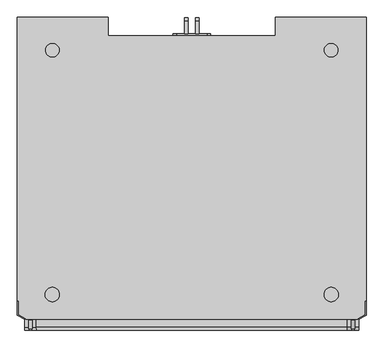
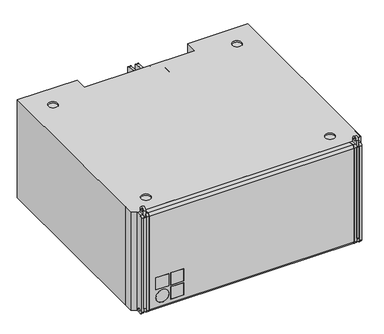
"""IFC4 building model written with IfcOpenShell, lengths in millimetres: proxy geometry, d&b SL-Series KSLi-SUB : KSLi-SUB."""

from ifc_helpers import new_model, si_unit, point, frame, frame_2d, origin, origin_with_axes, place, context, project, spatial, polyline, circle_curve, trimmed, segment, composite_curve, outline, extrude, source, transform, mapped, element, save
from ifc_brep_helpers import plane_surface, cylinder_surface, revolved_surface, advanced_brep


def communication_devices_1bfed97e(model_context):
    return source(origin(), model_context, "Body", "SolidModel", [
        extrude(outline(polyline([(2084.5, -246.9994027), (2140.5, -246.9994027), (2140.5, -256.9994027), (2084.5, -256.9994027), (2084.5, -246.9994027)])), frame((0.0, 0.0, 90.5), z_axis=(0.0, 0.0, 1.0), x_axis=(1.0, 0.0, 0.0)), (0.0, 0.0, 1.0), 56.0),
        extrude(outline(polyline([(2148.5, -246.9994027), (2204.5, -246.9994027), (2204.5, -256.9994027), (2148.5, -256.9994027), (2148.5, -246.9994027)])), frame((0.0, 0.0, 90.5), z_axis=(0.0, 0.0, 1.0), x_axis=(1.0, 0.0, 0.0)), (0.0, 0.0, 1.0), 56.0),
        extrude(outline(polyline([(2148.5, -246.9994027), (2204.5, -246.9994027), (2204.5, -256.9994027), (2148.5, -256.9994027), (2148.5, -246.9994027)])), frame((0.0, 0.0, 26.5), z_axis=(0.0, 0.0, 1.0), x_axis=(1.0, 0.0, 0.0)), (0.0, 0.0, 1.0), 56.0),
        extrude(outline(composite_curve([segment(trimmed(circle_curve(frame_2d((54.5, 2112.5)), 28.0), [point((54.5, 2084.5))], [point((54.5, 2140.5))], False, "CARTESIAN"), True, "CONTINUOUS"), segment(trimmed(circle_curve(frame_2d((54.5, 2112.5)), 28.0), [point((54.5, 2140.5))], [point((54.5, 2084.5))], False, "CARTESIAN"), True, "CONTINUOUS")], self_intersect=False)), frame((0.0, -256.9994027, 0.0), z_axis=(0.0, 1.0, 0.0), x_axis=(0.0, 0.0, 1.0)), (0.0, 0.0, 1.0), 10.0),
        advanced_brep(
        [(3000.0, -171.9994027, 450.0), (3000.0, 639.2505973, 450.0), (2740.0, 639.2505973, 450.0), (2740.0, 586.2505973, 450.0), (2260.0, 586.2505973, 450.0), (2260.0, 639.2505973, 450.0), (2000.0, 639.2505973, 450.0), (2000.0, -171.9994027, 450.0), (2003.0, -171.9994027, 450.0), (2003.0, -211.9316714, 450.0), (2023.5, -223.7673519, 450.0), (2023.5, -225.4994027, 450.0), (2976.5, -225.4994027, 450.0), (2976.5, -223.7673519, 450.0), (2997.0, -211.9316714, 450.0), (2997.0, -171.9994027, 450.0), (2080.7290498, 545.3281728, 450.0), (2119.5480947, 545.3281728, 450.0), (2079.3260723, -154.6718272, 450.0), (2120.3260723, -154.6718272, 450.0), (2919.2709502, 545.3281728, 450.0), (2880.4519053, 545.3281728, 450.0), (2920.6739277, -154.6718272, 450.0), (2879.6739277, -154.6718272, 450.0), (2976.5, -225.4994027, 0.0), (2023.5, -225.4994027, 0.0), (3000.0, 639.2505973, 0.0), (2740.0, 639.2505973, 0.0), (2808.0, 639.2505973, 168.0), (2816.0, 639.2505973, 160.0), (2860.0, 639.2505973, 160.0), (2868.0, 639.2505973, 168.0), (2868.0, 639.2505973, 282.0), (2860.0, 639.2505973, 290.0), (2816.0, 639.2505973, 290.0), (2808.0, 639.2505973, 282.0), (2740.0, 586.2505973, 0.0), (2740.0, 586.2505973, 17.4568966), (2740.0, 561.2505973, 17.4568966), (2740.0, 561.2505973, 152.0689655), (2740.0, 586.2505973, 152.0689655), (2740.0, 586.2505973, 157.887931), (2740.0, 561.2505973, 157.887931), (2740.0, 561.2505973, 292.112069), (2740.0, 586.2505973, 292.112069), (2740.0, 586.2505973, 297.9310345), (2740.0, 561.2505973, 297.9310345), (2740.0, 561.2505973, 432.5431034), (2740.0, 586.2505973, 432.5431034), (2607.8420876, 561.2505973, 17.4568966), (2708.4158183, 561.2505973, 152.0689655), (2705.4996607, 561.2505973, 157.887931), (2604.92593, 561.2505973, 23.2758621), (2554.0, 561.2505973, 23.2758621), (2554.0, 561.2505973, 426.7241379), (2604.92593, 561.2505973, 426.7241379), (2705.4996607, 561.2505973, 292.112069), (2708.4158183, 561.2505973, 297.9310345), (2607.8420876, 561.2505973, 432.5431034), (2260.0, 561.2505973, 297.9310345), (2260.0, 561.2505973, 432.5431034), (2392.1579124, 561.2505973, 432.5431034), (2291.5841817, 561.2505973, 297.9310345), (2260.0, 561.2505973, 157.887931), (2260.0, 561.2505973, 292.112069), (2294.5003393, 561.2505973, 292.112069), (2395.07407, 561.2505973, 426.7241379), (2446.0, 561.2505973, 426.7241379), (2446.0, 561.2505973, 23.2758621), (2395.07407, 561.2505973, 23.2758621), (2294.5003393, 561.2505973, 157.887931), (2260.0, 561.2505973, 17.4568966), (2260.0, 561.2505973, 152.0689655), (2291.5841817, 561.2505973, 152.0689655), (2392.1579124, 561.2505973, 17.4568966), (2260.0, 639.2505973, 0.0), (2260.0, 586.2505973, 432.5431034), (2260.0, 586.2505973, 297.9310345), (2260.0, 586.2505973, 292.112069), (2260.0, 586.2505973, 157.887931), (2260.0, 586.2505973, 152.0689655), (2260.0, 586.2505973, 17.4568966), (2260.0, 586.2505973, 0.0), (2000.0, 639.2505973, 0.0), (2184.0, 639.2505973, 160.0), (2192.0, 639.2505973, 168.0), (2192.0, 639.2505973, 282.0), (2184.0, 639.2505973, 290.0), (2140.0, 639.2505973, 290.0), (2132.0, 639.2505973, 282.0), (2132.0, 639.2505973, 168.0), (2140.0, 639.2505973, 160.0), (2080.7290498, 545.3281728, 444.0), (2119.5480947, 545.3281728, 444.0), (2079.3260723, -154.6718272, 444.0), (2120.3260723, -154.6718272, 444.0), (2919.2709502, 545.3281728, 444.0), (2880.4519053, 545.3281728, 444.0), (2920.6739277, -154.6718272, 444.0), (2879.6739277, -154.6718272, 444.0), (2080.7290498, 545.3281728, 6.0), (2119.5480947, 545.3281728, 6.0), (2079.3260723, -154.6718272, 6.0), (2120.3260723, -154.6718272, 6.0), (2919.2709502, 545.3281728, 6.0), (2880.4519053, 545.3281728, 6.0), (2920.6739277, -154.6718272, 6.0), (2879.6739277, -154.6718272, 6.0), (3000.0, -171.9994027, 0.0), (2997.0, -171.9994027, 0.0), (2000.0, -171.9994027, 0.0), (2003.0, -171.9994027, 0.0), (2976.5, -223.7673519, 0.0), (2997.0, -211.9316714, 0.0), (2003.0, -211.9316714, 0.0), (2023.5, -223.7673519, 0.0), (2080.7290498, 545.3281728, 0.0), (2119.5480947, 545.3281728, 0.0), (2079.3260723, -154.6718272, 0.0), (2120.3260723, -154.6718272, 0.0), (2919.2709502, 545.3281728, 0.0), (2880.4519053, 545.3281728, 0.0), (2920.6739277, -154.6718272, 0.0), (2879.6739277, -154.6718272, 0.0), (2607.8420876, 586.2505973, 432.5431034), (2708.4158183, 586.2505973, 297.9310345), (2705.4996607, 586.2505973, 292.112069), (2604.92593, 586.2505973, 426.7241379), (2554.0, 586.2505973, 426.7241379), (2554.0, 586.2505973, 23.2758621), (2604.92593, 586.2505973, 23.2758621), (2705.4996607, 586.2505973, 157.887931), (2708.4158183, 586.2505973, 152.0689655), (2607.8420876, 586.2505973, 17.4568966), (2392.1579124, 586.2505973, 17.4568966), (2291.5841817, 586.2505973, 152.0689655), (2294.5003393, 586.2505973, 157.887931), (2395.07407, 586.2505973, 23.2758621), (2446.0, 586.2505973, 23.2758621), (2446.0, 586.2505973, 426.7241379), (2395.07407, 586.2505973, 426.7241379), (2294.5003393, 586.2505973, 292.112069), (2291.5841817, 586.2505973, 297.9310345), (2392.1579124, 586.2505973, 432.5431034), (2192.0, 634.2505973, 168.0), (2184.0, 634.2505973, 160.0), (2140.0, 634.2505973, 160.0), (2132.0, 634.2505973, 168.0), (2132.0, 634.2505973, 282.0), (2140.0, 634.2505973, 290.0), (2184.0, 634.2505973, 290.0), (2192.0, 634.2505973, 282.0), (2818.0, 619.2505973, 280.0), (2858.0, 619.2505973, 280.0), (2858.0, 619.2505973, 170.0), (2818.0, 619.2505973, 170.0), (2818.0, 634.2505973, 280.0), (2858.0, 634.2505973, 280.0), (2858.0, 634.2505973, 170.0), (2818.0, 634.2505973, 170.0), (2808.0, 634.2505973, 168.0), (2808.0, 634.2505973, 282.0), (2816.0, 634.2505973, 290.0), (2860.0, 634.2505973, 290.0), (2868.0, 634.2505973, 282.0), (2868.0, 634.2505973, 168.0), (2860.0, 634.2505973, 160.0), (2816.0, 634.2505973, 160.0)],
        [
            (0, 1),
            (1, 2),
            (2, 3),
            (3, 4),
            (4, 5),
            (5, 6),
            (6, 7),
            (7, 8),
            (8, 9),
            (9, 10),
            (10, 11),
            (11, 12),
            (12, 13),
            (13, 14),
            (14, 15),
            (15, 0),
            (16, 17, circle_curve(frame((2100.1385723, 545.3281728, 450.0), z_axis=(0.0, 0.0, -1.0), x_axis=(1.0, 0.0, 0.0)), 19.4095225)),
            (17, 16, circle_curve(frame((2100.1385723, 545.3281728, 450.0), z_axis=(0.0, 0.0, -1.0), x_axis=(1.0, 0.0, 0.0)), 19.4095225)),
            (18, 19, circle_curve(frame((2099.8260723, -154.6718272, 450.0), z_axis=(0.0, 0.0, -1.0), x_axis=(1.0, 0.0, 0.0)), 20.5)),
            (19, 18, circle_curve(frame((2099.8260723, -154.6718272, 450.0), z_axis=(0.0, 0.0, -1.0), x_axis=(1.0, 0.0, 0.0)), 20.5)),
            (20, 21, circle_curve(frame((2899.8614277, 545.3281728, 450.0), z_axis=(0.0, 0.0, -1.0), x_axis=(-1.0, 0.0, 0.0)), 19.4095225)),
            (21, 20, circle_curve(frame((2899.8614277, 545.3281728, 450.0), z_axis=(0.0, 0.0, -1.0), x_axis=(-1.0, 0.0, 0.0)), 19.4095225)),
            (22, 23, circle_curve(frame((2900.1739277, -154.6718272, 450.0), z_axis=(0.0, 0.0, -1.0), x_axis=(-1.0, 0.0, 0.0)), 20.5)),
            (23, 22, circle_curve(frame((2900.1739277, -154.6718272, 450.0), z_axis=(0.0, 0.0, -1.0), x_axis=(-1.0, 0.0, 0.0)), 20.5)),
            (24, 12),
            (11, 25),
            (25, 24),
            (1, 26),
            (26, 27),
            (27, 2),
            (28, 29, circle_curve(frame((2816.0, 639.2505973, 168.0), z_axis=(0.0, -1.0, 0.0), x_axis=(-1.0, 0.0, 0.0)), 8.0)),
            (29, 30),
            (30, 31, circle_curve(frame((2860.0, 639.2505973, 168.0), z_axis=(0.0, -1.0, 0.0), x_axis=(-1.0, 0.0, 0.0)), 8.0)),
            (31, 32),
            (32, 33, circle_curve(frame((2860.0, 639.2505973, 282.0), z_axis=(0.0, -1.0, 0.0), x_axis=(-1.0, 0.0, 0.0)), 8.0)),
            (33, 34),
            (34, 35, circle_curve(frame((2816.0, 639.2505973, 282.0), z_axis=(0.0, -1.0, 0.0), x_axis=(-1.0, 0.0, 0.0)), 8.0)),
            (35, 28),
            (27, 36),
            (36, 37),
            (37, 38),
            (38, 39),
            (39, 40),
            (40, 41),
            (41, 42),
            (42, 43),
            (43, 44),
            (44, 45),
            (45, 46),
            (46, 47),
            (47, 48),
            (48, 3),
            (38, 49),
            (49, 50),
            (50, 39),
            (42, 51),
            (51, 52),
            (52, 53),
            (53, 54),
            (54, 55),
            (55, 56),
            (56, 43),
            (46, 57),
            (57, 58),
            (58, 47),
            (59, 60),
            (60, 61),
            (61, 62),
            (62, 59),
            (63, 64),
            (64, 65),
            (65, 66),
            (66, 67),
            (67, 68),
            (68, 69),
            (69, 70),
            (70, 63),
            (71, 72),
            (72, 73),
            (73, 74),
            (74, 71),
            (75, 5),
            (4, 76),
            (76, 60),
            (59, 77),
            (77, 78),
            (78, 64),
            (63, 79),
            (79, 80),
            (80, 72),
            (71, 81),
            (81, 82),
            (82, 75),
            (83, 6),
            (75, 83),
            (84, 85, circle_curve(frame((2184.0, 639.2505973, 168.0), z_axis=(0.0, -1.0, 0.0), x_axis=(1.0, 0.0, 0.0)), 8.0)),
            (85, 86),
            (86, 87, circle_curve(frame((2184.0, 639.2505973, 282.0), z_axis=(0.0, -1.0, 0.0), x_axis=(1.0, 0.0, 0.0)), 8.0)),
            (87, 88),
            (88, 89, circle_curve(frame((2140.0, 639.2505973, 282.0), z_axis=(0.0, -1.0, 0.0), x_axis=(1.0, 0.0, 0.0)), 8.0)),
            (89, 90),
            (90, 91, circle_curve(frame((2140.0, 639.2505973, 168.0), z_axis=(0.0, -1.0, 0.0), x_axis=(1.0, 0.0, 0.0)), 8.0)),
            (91, 84),
            (16, 92),
            (92, 93, circle_curve(frame((2100.1385723, 545.3281728, 444.0), z_axis=(0.0, 0.0, -1.0), x_axis=(1.0, 0.0, 0.0)), 19.4095225)),
            (93, 17),
            (93, 92, circle_curve(frame((2100.1385723, 545.3281728, 444.0), z_axis=(0.0, 0.0, -1.0), x_axis=(1.0, 0.0, 0.0)), 19.4095225)),
            (18, 94),
            (94, 95, circle_curve(frame((2099.8260723, -154.6718272, 444.0), z_axis=(0.0, 0.0, -1.0), x_axis=(1.0, 0.0, 0.0)), 20.5)),
            (95, 19),
            (95, 94, circle_curve(frame((2099.8260723, -154.6718272, 444.0), z_axis=(0.0, 0.0, -1.0), x_axis=(1.0, 0.0, 0.0)), 20.5)),
            (20, 96),
            (96, 97, circle_curve(frame((2899.8614277, 545.3281728, 444.0), z_axis=(0.0, 0.0, -1.0), x_axis=(-1.0, 0.0, 0.0)), 19.4095225)),
            (97, 21),
            (97, 96, circle_curve(frame((2899.8614277, 545.3281728, 444.0), z_axis=(0.0, 0.0, -1.0), x_axis=(-1.0, 0.0, 0.0)), 19.4095225)),
            (22, 98),
            (98, 99, circle_curve(frame((2900.1739277, -154.6718272, 444.0), z_axis=(0.0, 0.0, -1.0), x_axis=(-1.0, 0.0, 0.0)), 20.5)),
            (99, 23),
            (99, 98, circle_curve(frame((2900.1739277, -154.6718272, 444.0), z_axis=(0.0, 0.0, -1.0), x_axis=(-1.0, 0.0, 0.0)), 20.5)),
            (100, 101, circle_curve(frame((2100.1385723, 545.3281728, 6.0), z_axis=(0.0, 0.0, -1.0), x_axis=(1.0, 0.0, 0.0)), 19.4095225)),
            (101, 100, circle_curve(frame((2100.1385723, 545.3281728, 6.0), z_axis=(0.0, 0.0, -1.0), x_axis=(1.0, 0.0, 0.0)), 19.4095225)),
            (102, 103, circle_curve(frame((2099.8260723, -154.6718272, 6.0), z_axis=(0.0, 0.0, -1.0), x_axis=(1.0, 0.0, 0.0)), 20.5)),
            (103, 102, circle_curve(frame((2099.8260723, -154.6718272, 6.0), z_axis=(0.0, 0.0, -1.0), x_axis=(1.0, 0.0, 0.0)), 20.5)),
            (104, 105, circle_curve(frame((2899.8614277, 545.3281728, 6.0), z_axis=(0.0, 0.0, -1.0), x_axis=(-1.0, 0.0, 0.0)), 19.4095225)),
            (105, 104, circle_curve(frame((2899.8614277, 545.3281728, 6.0), z_axis=(0.0, 0.0, -1.0), x_axis=(-1.0, 0.0, 0.0)), 19.4095225)),
            (106, 107, circle_curve(frame((2900.1739277, -154.6718272, 6.0), z_axis=(0.0, 0.0, -1.0), x_axis=(-1.0, 0.0, 0.0)), 20.5)),
            (107, 106, circle_curve(frame((2900.1739277, -154.6718272, 6.0), z_axis=(0.0, 0.0, -1.0), x_axis=(-1.0, 0.0, 0.0)), 20.5)),
            (0, 108),
            (108, 26),
            (15, 109),
            (109, 108),
            (83, 110),
            (110, 7),
            (110, 111),
            (111, 8),
            (24, 112),
            (112, 13),
            (112, 113),
            (113, 14),
            (113, 109),
            (111, 114),
            (114, 9),
            (114, 115),
            (115, 10),
            (115, 25),
            (82, 36),
            (116, 117, circle_curve(frame((2100.1385723, 545.3281728, 0.0), z_axis=(0.0, 0.0, 1.0), x_axis=(1.0, 0.0, 0.0)), 19.4095225)),
            (117, 116, circle_curve(frame((2100.1385723, 545.3281728, 0.0), z_axis=(0.0, 0.0, 1.0), x_axis=(1.0, 0.0, 0.0)), 19.4095225)),
            (118, 119, circle_curve(frame((2099.8260723, -154.6718272, 0.0), z_axis=(0.0, 0.0, 1.0), x_axis=(1.0, 0.0, 0.0)), 20.5)),
            (119, 118, circle_curve(frame((2099.8260723, -154.6718272, 0.0), z_axis=(0.0, 0.0, 1.0), x_axis=(1.0, 0.0, 0.0)), 20.5)),
            (120, 121, circle_curve(frame((2899.8614277, 545.3281728, 0.0), z_axis=(0.0, 0.0, 1.0), x_axis=(-1.0, 0.0, 0.0)), 19.4095225)),
            (121, 120, circle_curve(frame((2899.8614277, 545.3281728, 0.0), z_axis=(0.0, 0.0, 1.0), x_axis=(-1.0, 0.0, 0.0)), 19.4095225)),
            (122, 123, circle_curve(frame((2900.1739277, -154.6718272, 0.0), z_axis=(0.0, 0.0, 1.0), x_axis=(-1.0, 0.0, 0.0)), 20.5)),
            (123, 122, circle_curve(frame((2900.1739277, -154.6718272, 0.0), z_axis=(0.0, 0.0, 1.0), x_axis=(-1.0, 0.0, 0.0)), 20.5)),
            (117, 101),
            (100, 116),
            (119, 103),
            (102, 118),
            (121, 105),
            (104, 120),
            (123, 107),
            (106, 122),
            (48, 124),
            (124, 125),
            (125, 45),
            (44, 126),
            (126, 127),
            (127, 128),
            (128, 129),
            (129, 130),
            (130, 131),
            (131, 41),
            (40, 132),
            (132, 133),
            (133, 37),
            (81, 134),
            (134, 135),
            (135, 80),
            (79, 136),
            (136, 137),
            (137, 138),
            (138, 139),
            (139, 140),
            (140, 141),
            (141, 78),
            (77, 142),
            (142, 143),
            (143, 76),
            (125, 57),
            (124, 58),
            (128, 54),
            (53, 129),
            (56, 126),
            (55, 127),
            (52, 130),
            (51, 131),
            (132, 50),
            (49, 133),
            (74, 134),
            (73, 135),
            (70, 136),
            (69, 137),
            (68, 138),
            (67, 139),
            (66, 140),
            (65, 141),
            (62, 142),
            (61, 143),
            (144, 145, circle_curve(frame((2184.0, 634.2505973, 168.0), z_axis=(0.0, 1.0, 0.0), x_axis=(1.0, 0.0, 0.0)), 8.0)),
            (145, 146),
            (146, 147, circle_curve(frame((2140.0, 634.2505973, 168.0), z_axis=(0.0, 1.0, 0.0), x_axis=(1.0, 0.0, 0.0)), 8.0)),
            (147, 148),
            (148, 149, circle_curve(frame((2140.0, 634.2505973, 282.0), z_axis=(0.0, 1.0, 0.0), x_axis=(1.0, 0.0, 0.0)), 8.0)),
            (149, 150),
            (150, 151, circle_curve(frame((2184.0, 634.2505973, 282.0), z_axis=(0.0, 1.0, 0.0), x_axis=(1.0, 0.0, 0.0)), 8.0)),
            (151, 144),
            (144, 85),
            (84, 145),
            (91, 146),
            (90, 147),
            (89, 148),
            (88, 149),
            (87, 150),
            (86, 151),
            (152, 153),
            (153, 154),
            (154, 155),
            (155, 152),
            (152, 156),
            (156, 157),
            (157, 153),
            (157, 158),
            (158, 154),
            (158, 159),
            (159, 155),
            (159, 156),
            (160, 161),
            (161, 162, circle_curve(frame((2816.0, 634.2505973, 282.0), z_axis=(0.0, 1.0, 0.0), x_axis=(-1.0, 0.0, 0.0)), 8.0)),
            (162, 163),
            (163, 164, circle_curve(frame((2860.0, 634.2505973, 282.0), z_axis=(0.0, 1.0, 0.0), x_axis=(-1.0, 0.0, 0.0)), 8.0)),
            (164, 165),
            (165, 166, circle_curve(frame((2860.0, 634.2505973, 168.0), z_axis=(0.0, 1.0, 0.0), x_axis=(-1.0, 0.0, 0.0)), 8.0)),
            (166, 167),
            (167, 160, circle_curve(frame((2816.0, 634.2505973, 168.0), z_axis=(0.0, 1.0, 0.0), x_axis=(-1.0, 0.0, 0.0)), 8.0)),
            (167, 29),
            (28, 160),
            (166, 30),
            (165, 31),
            (164, 32),
            (163, 33),
            (162, 34),
            (161, 35),
        ],
        [
            plane_surface(frame((2930.0, -225.4994027, 450.0), z_axis=(0.0, 0.0, 1.0), x_axis=(0.0, 1.0, 0.0))),
            plane_surface(frame((2070.0, -225.4994027, 450.0), z_axis=(0.0, -1.0, 0.0), x_axis=(0.0, 0.0, -1.0))),
            plane_surface(frame((2930.0, 639.2505973, 450.0), z_axis=(0.0, 1.0, 0.0), x_axis=(0.0, 0.0, -1.0))),
            plane_surface(frame((2740.0, 639.2505973, 450.0), z_axis=(-1.0, 0.0, 0.0), x_axis=(0.0, 0.0, -1.0))),
            plane_surface(frame((2740.0, 561.2505973, 450.0), z_axis=(0.0, 1.0, 0.0), x_axis=(0.0, 0.0, -1.0))),
            plane_surface(frame((2260.0, 561.2505973, 450.0), z_axis=(1.0, 0.0, 0.0), x_axis=(0.0, 0.0, -1.0))),
            plane_surface(frame((2260.0, 639.2505973, 450.0), z_axis=(0.0, 1.0, 0.0), x_axis=(0.0, 0.0, -1.0))),
            revolved_surface(polyline([(2119.5480948, 545.3281728, 444.0), (2119.5480948, 545.3281728, 450.0)]), (2100.1385723, 545.3281728, 475.0), (0.0, 0.0, -1.0)),
            revolved_surface(polyline([(2120.3260723, -154.6718272, 444.0), (2120.3260723, -154.6718272, 450.0)]), (2099.8260723, -154.6718272, 475.0), (0.0, 0.0, -1.0)),
            revolved_surface(polyline([(2880.4519052, 545.3281728, 444.0), (2880.4519052, 545.3281728, 450.0)]), (2899.8614277, 545.3281728, 475.0), (0.0, 0.0, -1.0)),
            revolved_surface(polyline([(2879.6739277, -154.6718272, 444.0), (2879.6739277, -154.6718272, 450.0)]), (2900.1739277, -154.6718272, 475.0), (0.0, 0.0, -1.0)),
            plane_surface(frame((2930.0, -225.4994027, 6.0), z_axis=(0.0, 0.0, -1.0), x_axis=(0.0, -1.0, 0.0))),
            plane_surface(frame((2930.0, -225.4994027, 444.0), z_axis=(0.0, 0.0, 1.0), x_axis=(0.0, 1.0, 0.0))),
            plane_surface(frame((3000.0, 960.0005973, 450.0), z_axis=(1.0, 0.0, 0.0), x_axis=(0.0, -1.0, 0.0))),
            plane_surface(frame((2930.0, -171.9994027, 0.0), z_axis=(0.0, -1.0, 0.0), x_axis=(1.0, 0.0, 0.0))),
            plane_surface(frame((2000.0, -171.9994027, -79.8), z_axis=(-1.0, 0.0, 0.0), x_axis=(0.0, 0.0, 1.0))),
            plane_surface(frame((2070.0, -171.9994027, 450.0), z_axis=(0.0, -1.0, 0.0), x_axis=(-1.0, 0.0, 0.0))),
            plane_surface(frame((2976.5, -225.4994027, 450.0), z_axis=(1.0, 0.0, 0.0), x_axis=(0.0, 0.0, -1.0))),
            plane_surface(frame((2976.5, -223.7673519, 450.0), z_axis=(0.4999999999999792, -0.8660254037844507, 0.0), x_axis=(0.0, 0.0, -1.0))),
            plane_surface(frame((2997.0, -211.9316714, 450.0), z_axis=(1.0, 0.0, 0.0), x_axis=(0.0, 0.0, -1.0))),
            plane_surface(frame((2003.0, -171.9994027, 450.0), z_axis=(-1.0, 0.0, 0.0), x_axis=(0.0, 0.0, -1.0))),
            plane_surface(frame((2003.0, -211.9316714, 450.0), z_axis=(-0.4999999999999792, -0.8660254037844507, 0.0), x_axis=(0.0, 0.0, -1.0))),
            plane_surface(frame((2023.5, -223.7673519, 450.0), z_axis=(-1.0, 0.0, 0.0), x_axis=(0.0, 0.0, -1.0))),
            plane_surface(frame((2930.0, 639.2505973, 0.0), z_axis=(0.0, 0.0, -1.0), x_axis=(1.0, 0.0, 0.0))),
            revolved_surface(polyline([(2119.5480948, 545.3281728, 0.0), (2119.5480948, 545.3281728, 6.0)]), (2100.1385723, 545.3281728, -85.0), (0.0, 0.0, -1.0)),
            revolved_surface(polyline([(2120.3260723, -154.6718272, 0.0), (2120.3260723, -154.6718272, 6.0)]), (2099.8260723, -154.6718272, -85.0), (0.0, 0.0, -1.0)),
            revolved_surface(polyline([(2880.4519052, 545.3281728, 0.0), (2880.4519052, 545.3281728, 6.0)]), (2899.8614277, 545.3281728, -85.0), (0.0, 0.0, -1.0)),
            revolved_surface(polyline([(2879.6739277, -154.6718272, 0.0), (2879.6739277, -154.6718272, 6.0)]), (2900.1739277, -154.6718272, -85.0), (0.0, 0.0, -1.0)),
            plane_surface(frame((2740.0, 586.2505973, -132.4784483), z_axis=(0.0, 1.0, 0.0), x_axis=(0.0, 0.0, -1.0))),
            plane_surface(frame((2708.4158183, 586.2505973, 297.9310345), z_axis=(0.0, 0.0, 1.0), x_axis=(0.0, -1.0, 0.0))),
            plane_surface(frame((2607.8420876, 586.2505973, 432.5431034), z_axis=(0.8010993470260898, 0.0, 0.598531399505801), x_axis=(0.0, -1.0, 0.0))),
            plane_surface(frame((2554.0, 586.2505973, 426.7241379), z_axis=(1.0, 0.0, 0.0), x_axis=(0.0, -1.0, 0.0))),
            plane_surface(frame((2740.0, 586.2505973, 292.112069), z_axis=(0.0, 0.0, -1.0), x_axis=(0.0, -1.0, 0.0))),
            plane_surface(frame((2705.4996607, 586.2505973, 292.112069), z_axis=(-0.801099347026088, 0.0, -0.5985313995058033), x_axis=(0.0, -1.0, 0.0))),
            plane_surface(frame((2604.92593, 586.2505973, 426.7241379), z_axis=(0.0, 0.0, -1.0), x_axis=(0.0, -1.0, 0.0))),
            plane_surface(frame((2554.0, 586.2505973, 23.2758621), z_axis=(0.0, 0.0, 1.0), x_axis=(0.0, -1.0, 0.0))),
            plane_surface(frame((2604.92593, 586.2505973, 23.2758621), z_axis=(-0.8010993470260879, 0.0, 0.5985313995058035), x_axis=(0.0, -1.0, 0.0))),
            plane_surface(frame((2705.4996607, 586.2505973, 157.887931), z_axis=(0.0, 0.0, 1.0), x_axis=(0.0, -1.0, 0.0))),
            plane_surface(frame((2740.0, 586.2505973, 432.5431034), z_axis=(0.0, 0.0, -1.0), x_axis=(0.0, -1.0, 0.0))),
            plane_surface(frame((2708.4158183, 586.2505973, 152.0689655), z_axis=(0.8010993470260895, 0.0, -0.5985313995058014), x_axis=(0.0, -1.0, 0.0))),
            plane_surface(frame((2607.8420876, 586.2505973, 17.4568966), z_axis=(0.0, 0.0, 1.0), x_axis=(0.0, -1.0, 0.0))),
            plane_surface(frame((2740.0, 586.2505973, 152.0689655), z_axis=(0.0, 0.0, -1.0), x_axis=(0.0, -1.0, 0.0))),
            plane_surface(frame((2260.0, 586.2505973, 17.4568966), z_axis=(0.0, 0.0, 1.0), x_axis=(0.0, -1.0, 0.0))),
            plane_surface(frame((2392.1579124, 586.2505973, 17.4568966), z_axis=(-0.8010993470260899, 0.0, -0.5985313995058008), x_axis=(0.0, -1.0, 0.0))),
            plane_surface(frame((2291.5841817, 586.2505973, 152.0689655), z_axis=(0.0, 0.0, -1.0), x_axis=(0.0, -1.0, 0.0))),
            plane_surface(frame((2260.0, 586.2505973, 157.887931), z_axis=(0.0, 0.0, 1.0), x_axis=(0.0, -1.0, 0.0))),
            plane_surface(frame((2294.5003393, 586.2505973, 157.887931), z_axis=(0.8010993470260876, 0.0, 0.5985313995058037), x_axis=(0.0, -1.0, 0.0))),
            plane_surface(frame((2395.07407, 586.2505973, 23.2758621), z_axis=(0.0, 0.0, 1.0), x_axis=(0.0, -1.0, 0.0))),
            plane_surface(frame((2446.0, 586.2505973, 23.2758621), z_axis=(-1.0, 0.0, 0.0), x_axis=(0.0, -1.0, 0.0))),
            plane_surface(frame((2446.0, 586.2505973, 426.7241379), z_axis=(0.0, 0.0, -1.0), x_axis=(0.0, -1.0, 0.0))),
            plane_surface(frame((2395.07407, 586.2505973, 426.7241379), z_axis=(0.8010993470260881, 0.0, -0.5985313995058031), x_axis=(0.0, -1.0, 0.0))),
            plane_surface(frame((2294.5003393, 586.2505973, 292.112069), z_axis=(0.0, 0.0, -1.0), x_axis=(0.0, -1.0, 0.0))),
            plane_surface(frame((2260.0, 586.2505973, 297.9310345), z_axis=(0.0, 0.0, 1.0), x_axis=(0.0, -1.0, 0.0))),
            plane_surface(frame((2291.5841817, 586.2505973, 297.9310345), z_axis=(-0.8010993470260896, 0.0, 0.5985313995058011), x_axis=(0.0, -1.0, 0.0))),
            plane_surface(frame((2392.1579124, 586.2505973, 432.5431034), z_axis=(0.0, 0.0, -1.0), x_axis=(0.0, -1.0, 0.0))),
            plane_surface(frame((2192.0, 634.2505973, 292.0), z_axis=(0.0, 1.0, 0.0), x_axis=(0.0, 0.0, 1.0))),
            revolved_surface(polyline([(2192.0, 634.2505973, 168.0), (2192.0, 639.2505973, 168.0)]), (2184.0, 639.2505973, 168.0), (0.0, -1.0, 0.0)),
            plane_surface(frame((2140.0, 634.2505973, 160.0), z_axis=(0.0, 0.0, 1.0), x_axis=(0.0, 1.0, 0.0))),
            revolved_surface(polyline([(2148.0, 634.2505973, 168.0), (2148.0, 639.2505973, 168.0)]), (2140.0, 639.2505973, 168.0), (0.0, -1.0, 0.0)),
            plane_surface(frame((2132.0, 634.2505973, 282.0), z_axis=(1.0, 0.0, 0.0), x_axis=(0.0, 1.0, 0.0))),
            revolved_surface(polyline([(2148.0, 634.2505973, 282.0), (2148.0, 639.2505973, 282.0)]), (2140.0, 639.2505973, 282.0), (0.0, -1.0, 0.0)),
            plane_surface(frame((2184.0, 634.2505973, 290.0), z_axis=(0.0, 0.0, -1.0), x_axis=(0.0, 1.0, 0.0))),
            revolved_surface(polyline([(2192.0, 634.2505973, 282.0), (2192.0, 639.2505973, 282.0)]), (2184.0, 639.2505973, 282.0), (0.0, -1.0, 0.0)),
            plane_surface(frame((2192.0, 634.2505973, 168.0), z_axis=(-1.0, 0.0, 0.0), x_axis=(0.0, 1.0, 0.0))),
            plane_surface(frame((2818.0, 619.2505973, 292.0), z_axis=(0.0, 1.0, 0.0), x_axis=(0.0, 0.0, -1.0))),
            plane_surface(frame((2858.0, 619.2505973, 280.0), z_axis=(0.0, 0.0, -1.0), x_axis=(0.0, 1.0, 0.0))),
            plane_surface(frame((2858.0, 619.2505973, 170.0), z_axis=(-1.0, 0.0, 0.0), x_axis=(0.0, 1.0, 0.0))),
            plane_surface(frame((2818.0, 619.2505973, 170.0), z_axis=(0.0, 0.0, 1.0), x_axis=(0.0, 1.0, 0.0))),
            plane_surface(frame((2818.0, 619.2505973, 280.0), z_axis=(1.0, 0.0, 0.0), x_axis=(0.0, 1.0, 0.0))),
            plane_surface(frame((2808.0, 634.2505973, 168.0), z_axis=(0.0, 1.0, 0.0), x_axis=(0.0, 0.0, -1.0))),
            revolved_surface(polyline([(2808.0, 634.2505973, 168.0), (2808.0, 639.2505973, 168.0)]), (2816.0, 639.2505973, 168.0), (0.0, -1.0, 0.0)),
            plane_surface(frame((2816.0, 634.2505973, 160.0), z_axis=(0.0, 0.0, 1.0), x_axis=(0.0, 1.0, 0.0))),
            revolved_surface(polyline([(2852.0, 634.2505973, 168.0), (2852.0, 639.2505973, 168.0)]), (2860.0, 639.2505973, 168.0), (0.0, -1.0, 0.0)),
            plane_surface(frame((2868.0, 634.2505973, 168.0), z_axis=(-1.0, 0.0, 0.0), x_axis=(0.0, 1.0, 0.0))),
            revolved_surface(polyline([(2852.0, 634.2505973, 282.0), (2852.0, 639.2505973, 282.0)]), (2860.0, 639.2505973, 282.0), (0.0, -1.0, 0.0)),
            plane_surface(frame((2860.0, 634.2505973, 290.0), z_axis=(0.0, 0.0, -1.0), x_axis=(0.0, 1.0, 0.0))),
            revolved_surface(polyline([(2808.0, 634.2505973, 282.0), (2808.0, 639.2505973, 282.0)]), (2816.0, 639.2505973, 282.0), (0.0, -1.0, 0.0)),
            plane_surface(frame((2808.0, 634.2505973, 282.0), z_axis=(1.0, 0.0, 0.0), x_axis=(0.0, 1.0, 0.0))),
        ],
        [
            (0, [[1, 2, 3, 4, 5, 6, 7, 8, 9, 10, 11, 12, 13, 14, 15, 16], [17, 18], [19, 20], [21, 22], [23, 24]]),
            (1, [[25, -12, 26, 27]]),
            (2, [[28, 29, 30, -2], [31, 32, 33, 34, 35, 36, 37, 38]]),
            (3, [[-30, 39, 40, 41, 42, 43, 44, 45, 46, 47, 48, 49, 50, 51, 52, -3]]),
            (4, [[-42, 53, 54, 55]]),
            (4, [[-46, 56, 57, 58, 59, 60, 61, 62]]),
            (4, [[-50, 63, 64, 65]]),
            (4, [[66, 67, 68, 69]]),
            (4, [[70, 71, 72, 73, 74, 75, 76, 77]]),
            (4, [[78, 79, 80, 81]]),
            (5, [[82, -5, 83, 84, -66, 85, 86, 87, -70, 88, 89, 90, -78, 91, 92, 93]]),
            (6, [[94, -6, -82, 95], [96, 97, 98, 99, 100, 101, 102, 103]]),
            (7, [[-17, 104, 105, 106]]),
            (7, [[-18, -106, 107, -104]]),
            (8, [[-19, 108, 109, 110]]),
            (8, [[-20, -110, 111, -108]]),
            (9, [[-21, 112, 113, 114]]),
            (9, [[-22, -114, 115, -112]]),
            (10, [[-23, 116, 117, 118]]),
            (10, [[-24, -118, 119, -116]]),
            (11, [[120, 121]]),
            (11, [[122, 123]]),
            (11, [[124, 125]]),
            (11, [[126, 127]]),
            (12, [[-105, -107]]),
            (12, [[-109, -111]]),
            (12, [[-113, -115]]),
            (12, [[-117, -119]]),
            (13, [[128, 129, -28, -1]]),
            (14, [[-128, -16, 130, 131]]),
            (15, [[-7, -94, 132, 133]]),
            (16, [[-133, 134, 135, -8]]),
            (17, [[-13, -25, 136, 137]]),
            (18, [[-14, -137, 138, 139]]),
            (19, [[-15, -139, 140, -130]]),
            (20, [[-9, -135, 141, 142]]),
            (21, [[-10, -142, 143, 144]]),
            (22, [[-11, -144, 145, -26]]),
            (23, [[-129, -131, -140, -138, -136, -27, -145, -143, -141, -134, -132, -95, -93, 146, -39, -29], [147, 148], [149, 150], [151, 152], [153, 154]]),
            (24, [[-148, 155, -120, 156]]),
            (24, [[-147, -156, -121, -155]]),
            (25, [[-150, 157, -122, 158]]),
            (25, [[-149, -158, -123, -157]]),
            (26, [[-152, 159, -124, 160]]),
            (26, [[-151, -160, -125, -159]]),
            (27, [[-154, 161, -126, 162]]),
            (27, [[-153, -162, -127, -161]]),
            (28, [[163, 164, 165, -48, 166, 167, 168, 169, 170, 171, 172, -44, 173, 174, 175, -40, -146, -92, 176, 177, 178, -89, 179, 180, 181, 182, 183, 184, 185, -86, 186, 187, 188, -83, -4, -52]]),
            (29, [[-165, 189, -63, -49]]),
            (30, [[-164, 190, -64, -189]]),
            (31, [[-169, 191, -59, 192]]),
            (32, [[-166, -47, -62, 193]]),
            (33, [[-167, -193, -61, 194]]),
            (34, [[-168, -194, -60, -191]]),
            (35, [[-170, -192, -58, 195]]),
            (36, [[-171, -195, -57, 196]]),
            (37, [[-172, -196, -56, -45]]),
            (38, [[-163, -51, -65, -190]]),
            (39, [[-174, 197, -54, 198]]),
            (40, [[-175, -198, -53, -41]]),
            (41, [[-173, -43, -55, -197]]),
            (42, [[-176, -91, -81, 199]]),
            (43, [[-177, -199, -80, 200]]),
            (44, [[-178, -200, -79, -90]]),
            (45, [[-179, -88, -77, 201]]),
            (46, [[-180, -201, -76, 202]]),
            (47, [[-181, -202, -75, 203]]),
            (48, [[-182, -203, -74, 204]]),
            (49, [[-183, -204, -73, 205]]),
            (50, [[-184, -205, -72, 206]]),
            (51, [[-185, -206, -71, -87]]),
            (52, [[-186, -85, -69, 207]]),
            (53, [[-187, -207, -68, 208]]),
            (54, [[-188, -208, -67, -84]]),
            (55, [[209, 210, 211, 212, 213, 214, 215, 216]]),
            (56, [[-209, 217, -96, 218]]),
            (57, [[-210, -218, -103, 219]]),
            (58, [[-211, -219, -102, 220]]),
            (59, [[-212, -220, -101, 221]]),
            (60, [[-213, -221, -100, 222]]),
            (61, [[-214, -222, -99, 223]]),
            (62, [[-215, -223, -98, 224]]),
            (63, [[-216, -224, -97, -217]]),
            (64, [[225, 226, 227, 228]]),
            (65, [[-225, 229, 230, 231]]),
            (66, [[-226, -231, 232, 233]]),
            (67, [[-227, -233, 234, 235]]),
            (68, [[-228, -235, 236, -229]]),
            (69, [[237, 238, 239, 240, 241, 242, 243, 244], [-230, -236, -234, -232]]),
            (70, [[-244, 245, -31, 246]]),
            (71, [[-243, 247, -32, -245]]),
            (72, [[-242, 248, -33, -247]]),
            (73, [[-241, 249, -34, -248]]),
            (74, [[-240, 250, -35, -249]]),
            (75, [[-239, 251, -36, -250]]),
            (76, [[-238, 252, -37, -251]]),
            (77, [[-237, -246, -38, -252]]),
        ],
    ),
        extrude(outline(composite_curve([segment(trimmed(circle_curve(frame_2d((168.0, 2816.0)), 8.0), [point((168.0, 2808.0))], [point((160.0, 2816.0))], False, "CARTESIAN"), True, "CONTINUOUS"), segment(polyline([(160.0, 2816.0), (160.0, 2860.0)]), True, "CONTINUOUS"), segment(trimmed(circle_curve(frame_2d((168.0, 2860.0)), 8.0), [point((160.0, 2860.0))], [point((168.0, 2868.0))], False, "CARTESIAN"), True, "CONTINUOUS"), segment(polyline([(168.0, 2868.0), (282.0, 2868.0)]), True, "CONTINUOUS"), segment(trimmed(circle_curve(frame_2d((282.0, 2860.0)), 8.0), [point((282.0, 2868.0))], [point((290.0, 2860.0))], False, "CARTESIAN"), True, "CONTINUOUS"), segment(polyline([(290.0, 2860.0), (290.0, 2816.0)]), True, "CONTINUOUS"), segment(trimmed(circle_curve(frame_2d((282.0, 2816.0)), 8.0), [point((290.0, 2816.0))], [point((282.0, 2808.0))], False, "CARTESIAN"), True, "CONTINUOUS"), segment(polyline([(282.0, 2808.0), (168.0, 2808.0)]), True, "CONTINUOUS")], self_intersect=False), holes=[polyline([(280.0, 2818.0), (280.0, 2858.0), (170.0, 2858.0), (170.0, 2818.0), (280.0, 2818.0)])]), frame((0.0, 634.2505973, 0.0), z_axis=(0.0, 1.0, 0.0), x_axis=(0.0, 0.0, 1.0)), (0.0, 0.0, 1.0), 5.0),
        extrude(outline(composite_curve([segment(polyline([(592.2505973, 6.0437443), (592.2505973, 443.9562557), (628.7087366, 440.7665818)]), True, "CONTINUOUS"), segment(trimmed(circle_curve(frame_2d((628.7087366, 430.7247211)), 10.0418607), [point((628.7087366, 440.7665818))], [point((638.7505973, 430.7247211))], False, "CARTESIAN"), True, "CONTINUOUS"), segment(polyline([(638.7505973, 430.7247211), (638.7505973, 19.2752789)]), True, "CONTINUOUS"), segment(trimmed(circle_curve(frame_2d((628.7505973, 19.2752789)), 10.0), [point((638.7505973, 19.2752789))], [point((629.6221547, 9.3133319))], False, "CARTESIAN"), True, "CONTINUOUS"), segment(polyline([(629.6221547, 9.3133319), (592.2505973, 6.0437443)]), True, "CONTINUOUS")], self_intersect=False)), frame((2478.75, 0.0, 0.0), z_axis=(1.0, 0.0, 0.0), x_axis=(0.0, 1.0, 0.0)), (0.0, 0.0, 1.0), 10.0),
        extrude(outline(composite_curve([segment(polyline([(592.2505973, 6.0437443), (592.2505973, 443.9562557), (628.7087366, 440.7665818)]), True, "CONTINUOUS"), segment(trimmed(circle_curve(frame_2d((628.7087366, 430.7247211)), 10.0418607), [point((628.7087366, 440.7665818))], [point((638.7505973, 430.7247211))], False, "CARTESIAN"), True, "CONTINUOUS"), segment(polyline([(638.7505973, 430.7247211), (638.7505973, 19.2752789)]), True, "CONTINUOUS"), segment(trimmed(circle_curve(frame_2d((628.7505973, 19.2752789)), 10.0), [point((638.7505973, 19.2752789))], [point((629.6221547, 9.3133319))], False, "CARTESIAN"), True, "CONTINUOUS"), segment(polyline([(629.6221547, 9.3133319), (592.2505973, 6.0437443)]), True, "CONTINUOUS")], self_intersect=False)), frame((2511.25, 0.0, 0.0), z_axis=(1.0, 0.0, 0.0), x_axis=(0.0, 1.0, 0.0)), (0.0, 0.0, 1.0), 10.0),
        extrude(outline(composite_curve([segment(trimmed(circle_curve(frame_2d((16.0, 2456.0)), 10.0), [point((16.0, 2446.0))], [point((6.0, 2456.0))], False, "CARTESIAN"), True, "CONTINUOUS"), segment(polyline([(6.0, 2456.0), (6.0, 2544.0)]), True, "CONTINUOUS"), segment(trimmed(circle_curve(frame_2d((16.0, 2544.0)), 10.0), [point((6.0, 2544.0))], [point((16.0, 2554.0))], False, "CARTESIAN"), True, "CONTINUOUS"), segment(polyline([(16.0, 2554.0), (434.0, 2554.0)]), True, "CONTINUOUS"), segment(trimmed(circle_curve(frame_2d((434.0, 2544.0)), 10.0), [point((434.0, 2554.0))], [point((444.0, 2544.0))], False, "CARTESIAN"), True, "CONTINUOUS"), segment(polyline([(444.0, 2544.0), (444.0, 2456.0)]), True, "CONTINUOUS"), segment(trimmed(circle_curve(frame_2d((434.0, 2456.0)), 10.0), [point((444.0, 2456.0))], [point((434.0, 2446.0))], False, "CARTESIAN"), True, "CONTINUOUS"), segment(polyline([(434.0, 2446.0), (16.0, 2446.0)]), True, "CONTINUOUS")], self_intersect=False)), frame((0.0, 586.2505973, 0.0), z_axis=(0.0, 1.0, 0.0), x_axis=(0.0, 0.0, 1.0)), (0.0, 0.0, 1.0), 6.0),
        extrude(outline(polyline([(23.2758621, 2554.0), (23.2758621, 2604.92593), (157.887931, 2705.4996607), (157.887931, 2740.0), (292.112069, 2740.0), (292.112069, 2705.4996607), (426.7241379, 2604.92593), (426.7241379, 2554.0), (23.2758621, 2554.0)])), frame((0.0, 561.2505973, 0.0), z_axis=(0.0, 1.0, 0.0), x_axis=(0.0, 0.0, 1.0)), (0.0, 0.0, 1.0), 25.0),
        extrude(outline(polyline([(23.2758621, 2446.0), (426.7241379, 2446.0), (426.7241379, 2395.07407), (292.112069, 2294.5003393), (292.112069, 2260.0), (157.887931, 2260.0), (157.887931, 2294.5003393), (23.2758621, 2395.07407), (23.2758621, 2446.0)])), frame((0.0, 561.2505973, 0.0), z_axis=(0.0, 1.0, 0.0), x_axis=(0.0, 0.0, 1.0)), (0.0, 0.0, 1.0), 25.0),
        extrude(outline(polyline([(432.5431034, 2607.8420876), (297.9310345, 2708.4158183), (297.9310345, 2740.0), (432.5431034, 2740.0), (432.5431034, 2607.8420876)])), frame((0.0, 561.2505973, 0.0), z_axis=(0.0, 1.0, 0.0), x_axis=(0.0, 0.0, 1.0)), (0.0, 0.0, 1.0), 25.0),
        extrude(outline(polyline([(432.5431034, 2392.1579124), (432.5431034, 2260.0), (297.9310345, 2260.0), (297.9310345, 2291.5841817), (432.5431034, 2392.1579124)])), frame((0.0, 561.2505973, 0.0), z_axis=(0.0, 1.0, 0.0), x_axis=(0.0, 0.0, 1.0)), (0.0, 0.0, 1.0), 25.0),
        extrude(outline(polyline([(17.4568966, 2607.8420876), (17.4568966, 2740.0), (152.0689655, 2740.0), (152.0689655, 2708.4158183), (17.4568966, 2607.8420876)])), frame((0.0, 561.2505973, 0.0), z_axis=(0.0, 1.0, 0.0), x_axis=(0.0, 0.0, 1.0)), (0.0, 0.0, 1.0), 25.0),
        extrude(outline(polyline([(17.4568966, 2392.1579124), (152.0689655, 2291.5841817), (152.0689655, 2260.0), (17.4568966, 2260.0), (17.4568966, 2392.1579124)])), frame((0.0, 561.2505973, 0.0), z_axis=(0.0, 1.0, 0.0), x_axis=(0.0, 0.0, 1.0)), (0.0, 0.0, 1.0), 25.0),
        extrude(outline(composite_curve([segment(trimmed(circle_curve(frame_2d((-240.2494027, 467.0)), 12.0), [point((-252.2494027, 467.0))], [point((-228.2494027, 467.0))], False, "CARTESIAN"), True, "CONTINUOUS"), segment(polyline([(-228.2494027, 467.0), (-228.2494027, 439.1966304), (-252.2494027, 439.1966304), (-252.2494027, 467.0)]), True, "CONTINUOUS")], self_intersect=False), holes=[composite_curve([segment(trimmed(circle_curve(frame_2d((-240.2494027, 467.0)), 5.15), [point((-245.3994027, 467.0))], [point((-235.0994027, 467.0))], True, "CARTESIAN"), True, "CONTINUOUS"), segment(trimmed(circle_curve(frame_2d((-240.2494027, 467.0)), 5.15), [point((-235.0994027, 467.0))], [point((-245.3994027, 467.0))], True, "CARTESIAN"), True, "CONTINUOUS")], self_intersect=False)]), frame((2957.5, 0.0, 0.0), z_axis=(1.0, 0.0, 0.0), x_axis=(0.0, 1.0, 0.0)), (0.0, 0.0, 1.0), 10.0),
        extrude(outline(polyline([(2957.5, -256.9994027), (2957.5, -225.4994027), (2967.5, -225.4994027), (2967.5, -256.9994027), (2957.5, -256.9994027)])), frame((0.0, 0.0, 21.6), z_axis=(0.0, 0.0, 1.0), x_axis=(1.0, 0.0, 0.0)), (0.0, 0.0, 1.0), 417.5966304),
        extrude(outline(composite_curve([segment(trimmed(circle_curve(frame_2d((-247.9994027, 441.0)), 9.0), [point((-256.9994027, 441.0))], [point((-247.9994027, 450.0))], False, "CARTESIAN"), True, "CONTINUOUS"), segment(polyline([(-247.9994027, 450.0), (-225.4994027, 450.0), (-225.4994027, 0.0), (-247.9994027, 0.0)]), True, "CONTINUOUS"), segment(trimmed(circle_curve(frame_2d((-247.9994027, 9.0)), 9.0), [point((-247.9994027, 0.0))], [point((-256.9994027, 9.0))], False, "CARTESIAN"), True, "CONTINUOUS"), segment(polyline([(-256.9994027, 9.0), (-256.9994027, 441.0)]), True, "CONTINUOUS")], self_intersect=False)), frame((2945.5, 0.0, 0.0), z_axis=(1.0, 0.0, 0.0), x_axis=(0.0, 1.0, 0.0)), (0.0, 0.0, 1.0), 12.0),
        extrude(outline(composite_curve([segment(trimmed(circle_curve(frame_2d((-247.9994027, 441.0)), 9.0), [point((-256.9994027, 441.0))], [point((-247.9994027, 450.0))], False, "CARTESIAN"), True, "CONTINUOUS"), segment(polyline([(-247.9994027, 450.0), (-225.4994027, 450.0), (-225.4994027, 0.0), (-247.9994027, 0.0)]), True, "CONTINUOUS"), segment(trimmed(circle_curve(frame_2d((-247.9994027, 9.0)), 9.0), [point((-247.9994027, 0.0))], [point((-256.9994027, 9.0))], False, "CARTESIAN"), True, "CONTINUOUS"), segment(polyline([(-256.9994027, 9.0), (-256.9994027, 441.0)]), True, "CONTINUOUS")], self_intersect=False), holes=[composite_curve([segment(trimmed(circle_curve(frame_2d((-240.2494027, 13.5163859)), 5.2), [point((-245.4494027, 13.5163859))], [point((-235.0494027, 13.5163859))], True, "CARTESIAN"), True, "CONTINUOUS"), segment(trimmed(circle_curve(frame_2d((-240.2494027, 13.5163859)), 5.2), [point((-235.0494027, 13.5163859))], [point((-245.4494027, 13.5163859))], True, "CARTESIAN"), True, "CONTINUOUS")], self_intersect=False)]), frame((2967.5, 0.0, 0.0), z_axis=(1.0, 0.0, 0.0), x_axis=(0.0, 1.0, 0.0)), (0.0, 0.0, 1.0), 12.0),
        advanced_brep(
        [(2140.5, -246.9994027, 146.5), (2084.5, -246.9994027, 146.5), (2084.5, -246.9994027, 90.5), (2140.5, -246.9994027, 90.5), (2204.5, -246.9994027, 146.5), (2148.5, -246.9994027, 146.5), (2148.5, -246.9994027, 90.5), (2204.5, -246.9994027, 90.5), (2204.5, -246.9994027, 82.5), (2148.5, -246.9994027, 82.5), (2148.5, -246.9994027, 26.5), (2204.5, -246.9994027, 26.5), (2084.5, -246.9994027, 54.5), (2140.5, -246.9994027, 54.5), (2140.5, -256.9994027, 90.5), (2140.5, -256.9994027, 146.5), (2084.5, -256.9994027, 90.5), (2084.5, -256.9994027, 146.5), (2204.5, -256.9994027, 90.5), (2204.5, -256.9994027, 146.5), (2148.5, -256.9994027, 90.5), (2148.5, -256.9994027, 146.5), (2204.5, -256.9994027, 26.5), (2204.5, -256.9994027, 82.5), (2148.5, -256.9994027, 26.5), (2148.5, -256.9994027, 82.5), (2140.5, -256.9994027, 54.5), (2084.5, -256.9994027, 54.5), (2945.5, -225.4994027, 0.0), (2945.5, -225.4994027, 450.0), (2945.5, -246.9994027, 450.0), (2945.5, -256.9994027, 440.0), (2945.5, -256.9994027, 10.0), (2945.5, -246.9994027, 0.0), (2054.5, -225.4994027, 0.0), (2054.5, -246.9994027, 0.0), (2054.5, -256.9994027, 10.0), (2054.5, -256.9994027, 440.0), (2054.5, -246.9994027, 450.0), (2054.5, -225.4994027, 450.0)],
        [
            (0, 1),
            (1, 2),
            (2, 3),
            (3, 0),
            (4, 5),
            (5, 6),
            (6, 7),
            (7, 4),
            (8, 9),
            (9, 10),
            (10, 11),
            (11, 8),
            (12, 13, circle_curve(frame((2112.5, -246.9994027, 54.5), z_axis=(0.0, -1.0, 0.0), x_axis=(1.0, 0.0, 0.0)), 28.0)),
            (13, 12, circle_curve(frame((2112.5, -246.9994027, 54.5), z_axis=(0.0, -1.0, 0.0), x_axis=(1.0, 0.0, 0.0)), 28.0)),
            (3, 14),
            (14, 15),
            (15, 0),
            (2, 16),
            (16, 14),
            (1, 17),
            (17, 16),
            (15, 17),
            (7, 18),
            (18, 19),
            (19, 4),
            (6, 20),
            (20, 18),
            (5, 21),
            (21, 20),
            (19, 21),
            (11, 22),
            (22, 23),
            (23, 8),
            (10, 24),
            (24, 22),
            (9, 25),
            (25, 24),
            (23, 25),
            (13, 26),
            (26, 27, circle_curve(frame((2112.5, -256.9994027, 54.5), z_axis=(0.0, -1.0, 0.0), x_axis=(1.0, 0.0, 0.0)), 28.0)),
            (27, 12),
            (27, 26, circle_curve(frame((2112.5, -256.9994027, 54.5), z_axis=(0.0, -1.0, 0.0), x_axis=(1.0, 0.0, 0.0)), 28.0)),
            (28, 29),
            (29, 30),
            (30, 31, circle_curve(frame((2945.5, -246.9994027, 440.0), z_axis=(1.0, 0.0, 0.0), x_axis=(0.0, 1.0, 0.0)), 10.0)),
            (31, 32),
            (32, 33, circle_curve(frame((2945.5, -246.9994027, 10.0), z_axis=(1.0, 0.0, 0.0), x_axis=(0.0, 1.0, 0.0)), 10.0)),
            (33, 28),
            (34, 35),
            (35, 36, circle_curve(frame((2054.5, -246.9994027, 10.0), z_axis=(-1.0, 0.0, 0.0), x_axis=(0.0, 1.0, 0.0)), 10.0)),
            (36, 37),
            (37, 38, circle_curve(frame((2054.5, -246.9994027, 440.0), z_axis=(-1.0, 0.0, 0.0), x_axis=(0.0, 1.0, 0.0)), 10.0)),
            (38, 39),
            (39, 34),
            (28, 34),
            (39, 29),
            (38, 30),
            (37, 31),
            (36, 32),
            (35, 33),
        ],
        [
            plane_surface(frame((2140.5, -246.9994027, 136.0), z_axis=(0.0, -1.0, 0.0), x_axis=(0.0, 0.0, -1.0))),
            plane_surface(frame((2140.5, -246.9994027, 146.5), z_axis=(-1.0, 0.0, 0.0), x_axis=(0.0, -1.0, 0.0))),
            plane_surface(frame((2140.5, -246.9994027, 90.5), z_axis=(0.0, 0.0, 1.0), x_axis=(0.0, -1.0, 0.0))),
            plane_surface(frame((2084.5, -246.9994027, 90.5), z_axis=(1.0, 0.0, 0.0), x_axis=(0.0, -1.0, 0.0))),
            plane_surface(frame((2084.5, -246.9994027, 146.5), z_axis=(0.0, 0.0, -1.0), x_axis=(0.0, -1.0, 0.0))),
            plane_surface(frame((2204.5, -246.9994027, 146.5), z_axis=(-1.0, 0.0, 0.0), x_axis=(0.0, -1.0, 0.0))),
            plane_surface(frame((2204.5, -246.9994027, 90.5), z_axis=(0.0, 0.0, 1.0), x_axis=(0.0, -1.0, 0.0))),
            plane_surface(frame((2148.5, -246.9994027, 90.5), z_axis=(1.0, 0.0, 0.0), x_axis=(0.0, -1.0, 0.0))),
            plane_surface(frame((2148.5, -246.9994027, 146.5), z_axis=(0.0, 0.0, -1.0), x_axis=(0.0, -1.0, 0.0))),
            plane_surface(frame((2204.5, -246.9994027, 82.5), z_axis=(-1.0, 0.0, 0.0), x_axis=(0.0, -1.0, 0.0))),
            plane_surface(frame((2204.5, -246.9994027, 26.5), z_axis=(0.0, 0.0, 1.0), x_axis=(0.0, -1.0, 0.0))),
            plane_surface(frame((2148.5, -246.9994027, 26.5), z_axis=(1.0, 0.0, 0.0), x_axis=(0.0, -1.0, 0.0))),
            plane_surface(frame((2148.5, -246.9994027, 82.5), z_axis=(0.0, 0.0, -1.0), x_axis=(0.0, -1.0, 0.0))),
            revolved_surface(polyline([(2140.5, -246.9994027, 54.5), (2140.5, -256.9994027, 54.5)]), (2112.5, -256.9994027, 54.5), (0.0, 1.0, 0.0)),
            plane_surface(frame((2945.5, -225.4994027, 29.9836141), z_axis=(1.0, 0.0, 0.0), x_axis=(0.0, 0.0, 1.0))),
            plane_surface(frame((2054.5, -225.4994027, 29.9836141), z_axis=(-1.0, 0.0, 0.0), x_axis=(0.0, 0.0, -1.0))),
            plane_surface(frame((2945.5, -225.4994027, 0.0), z_axis=(0.0, 1.0, 0.0), x_axis=(-1.0, 0.0, 0.0))),
            plane_surface(frame((2945.5, -225.4994027, 450.0), z_axis=(0.0, 0.0, 1.0), x_axis=(-1.0, 0.0, 0.0))),
            cylinder_surface(frame((2054.5, -246.9994027, 440.0), z_axis=(1.0, 0.0, 0.0), x_axis=(0.0, 1.0, 0.0)), 10.0),
            plane_surface(frame((2945.5, -256.9994027, 440.0), z_axis=(0.0, -1.0, 0.0), x_axis=(-1.0, 0.0, 0.0))),
            cylinder_surface(frame((2054.5, -246.9994027, 10.0), z_axis=(1.0, 0.0, 0.0), x_axis=(0.0, 1.0, 0.0)), 10.0),
            plane_surface(frame((2945.5, -246.9994027, 0.0), z_axis=(0.0, 0.0, -1.0), x_axis=(-1.0, 0.0, 0.0))),
        ],
        [
            (0, [[1, 2, 3, 4]]),
            (0, [[5, 6, 7, 8]]),
            (0, [[9, 10, 11, 12]]),
            (0, [[13, 14]]),
            (1, [[-4, 15, 16, 17]]),
            (2, [[-3, 18, 19, -15]]),
            (3, [[-2, 20, 21, -18]]),
            (4, [[-1, -17, 22, -20]]),
            (5, [[-8, 23, 24, 25]]),
            (6, [[-7, 26, 27, -23]]),
            (7, [[-6, 28, 29, -26]]),
            (8, [[-5, -25, 30, -28]]),
            (9, [[-12, 31, 32, 33]]),
            (10, [[-11, 34, 35, -31]]),
            (11, [[-10, 36, 37, -34]]),
            (12, [[-9, -33, 38, -36]]),
            (13, [[-14, 39, 40, 41]]),
            (13, [[-13, -41, 42, -39]]),
            (14, [[43, 44, 45, 46, 47, 48]]),
            (15, [[49, 50, 51, 52, 53, 54]]),
            (16, [[-43, 55, -54, 56]]),
            (17, [[-44, -56, -53, 57]]),
            (18, [[-45, -57, -52, 58]]),
            (19, [[-46, -58, -51, 59], [-16, -19, -21, -22], [-24, -27, -29, -30], [-32, -35, -37, -38], [-40, -42]]),
            (20, [[-47, -59, -50, 60]]),
            (21, [[-48, -60, -49, -55]]),
        ],
    ),
        extrude(outline(composite_curve([segment(trimmed(circle_curve(frame_2d((-240.2494027, 467.0)), 12.0), [point((-252.2494027, 467.0))], [point((-228.2494027, 467.0))], False, "CARTESIAN"), True, "CONTINUOUS"), segment(polyline([(-228.2494027, 467.0), (-228.2494027, 439.1966304), (-252.2494027, 439.1966304), (-252.2494027, 467.0)]), True, "CONTINUOUS")], self_intersect=False), holes=[composite_curve([segment(trimmed(circle_curve(frame_2d((-240.2494027, 467.0)), 5.15), [point((-245.3994027, 467.0))], [point((-235.0994027, 467.0))], True, "CARTESIAN"), True, "CONTINUOUS"), segment(trimmed(circle_curve(frame_2d((-240.2494027, 467.0)), 5.15), [point((-235.0994027, 467.0))], [point((-245.3994027, 467.0))], True, "CARTESIAN"), True, "CONTINUOUS")], self_intersect=False)]), frame((2032.5, 0.0, 0.0), z_axis=(1.0, 0.0, 0.0), x_axis=(0.0, 1.0, 0.0)), (0.0, 0.0, 1.0), 10.0),
        extrude(outline(polyline([(2042.5, -225.4994027), (2042.5, -256.9994027), (2032.5, -256.9994027), (2032.5, -225.4994027), (2042.5, -225.4994027)])), frame((0.0, 0.0, 21.6), z_axis=(0.0, 0.0, 1.0), x_axis=(1.0, 0.0, 0.0)), (0.0, 0.0, 1.0), 417.5966304),
        extrude(outline(composite_curve([segment(polyline([(-225.4994027, 450.0), (-225.4994027, 0.0), (-247.9994027, 0.0)]), True, "CONTINUOUS"), segment(trimmed(circle_curve(frame_2d((-247.9994027, 9.0)), 9.0), [point((-247.9994027, 0.0))], [point((-256.9994027, 9.0))], False, "CARTESIAN"), True, "CONTINUOUS"), segment(polyline([(-256.9994027, 9.0), (-256.9994027, 441.0)]), True, "CONTINUOUS"), segment(trimmed(circle_curve(frame_2d((-247.9994027, 441.0)), 9.0), [point((-256.9994027, 441.0))], [point((-247.9994027, 450.0))], False, "CARTESIAN"), True, "CONTINUOUS"), segment(polyline([(-247.9994027, 450.0), (-225.4994027, 450.0)]), True, "CONTINUOUS")], self_intersect=False)), frame((2042.5, 0.0, 0.0), z_axis=(1.0, 0.0, 0.0), x_axis=(0.0, 1.0, 0.0)), (0.0, 0.0, 1.0), 12.0),
        extrude(outline(composite_curve([segment(polyline([(-225.4994027, 450.0), (-225.4994027, 0.0), (-247.9994027, 0.0)]), True, "CONTINUOUS"), segment(trimmed(circle_curve(frame_2d((-247.9994027, 9.0)), 9.0), [point((-247.9994027, 0.0))], [point((-256.9994027, 9.0))], False, "CARTESIAN"), True, "CONTINUOUS"), segment(polyline([(-256.9994027, 9.0), (-256.9994027, 441.0)]), True, "CONTINUOUS"), segment(trimmed(circle_curve(frame_2d((-247.9994027, 441.0)), 9.0), [point((-256.9994027, 441.0))], [point((-247.9994027, 450.0))], False, "CARTESIAN"), True, "CONTINUOUS"), segment(polyline([(-247.9994027, 450.0), (-225.4994027, 450.0)]), True, "CONTINUOUS")], self_intersect=False), holes=[composite_curve([segment(trimmed(circle_curve(frame_2d((-240.2494027, 13.5163859)), 5.2), [point((-245.4494027, 13.5163859))], [point((-235.0494027, 13.5163859))], True, "CARTESIAN"), True, "CONTINUOUS"), segment(trimmed(circle_curve(frame_2d((-240.2494027, 13.5163859)), 5.2), [point((-235.0494027, 13.5163859))], [point((-245.4494027, 13.5163859))], True, "CARTESIAN"), True, "CONTINUOUS")], self_intersect=False)]), frame((2020.5, 0.0, 0.0), z_axis=(1.0, 0.0, 0.0), x_axis=(0.0, 1.0, 0.0)), (0.0, 0.0, 1.0), 12.0),
        extrude(outline(polyline([(2003.0, -171.9994027), (2003.0, -211.9316714), (2023.5, -223.7673519), (2023.5, -225.4994027), (2020.5, -225.4994027), (2000.0, -213.6637222), (2000.0, -171.9994027), (2003.0, -171.9994027)])), origin_with_axes(), (0.0, 0.0, 1.0), 450.0),
        extrude(outline(polyline([(2997.0, -171.9994027), (3000.0, -171.9994027), (3000.0, -213.6637222), (2979.5, -225.4994027), (2976.5, -225.4994027), (2976.5, -223.7673519), (2997.0, -211.9316714), (2997.0, -171.9994027)])), origin_with_axes(), (0.0, 0.0, 1.0), 450.0),
    ])


if __name__ == "__main__":
    model = new_model("IFC4")
    model_context = context("Model", 3, world=origin())
    ifc_project = project(units=[si_unit("LENGTHUNIT", "METRE", prefix="MILLI")], contexts=[model_context])
    site = spatial("IfcSite", under=ifc_project)
    building = spatial("IfcBuilding", under=site)
    placement = place(None, origin())
    communication_devices_shape = communication_devices_1bfed97e(model_context)
    element("IfcBuildingElementProxy", 1, Name="d&b SL-Series KSLi-SUB : KSLi-SUB", ObjectType="d&b SL-Series KSLi-SUB : KSLi-SUB", at=placement, inside=building, context=model_context, shape_type="MappedRepresentation", body=[
        mapped(communication_devices_shape, transform((0.0, 0.0, 0.0), x_axis=(1.0, 0.0, 0.0), y_axis=(0.0, 1.0, 0.0), z_axis=(0.0, 0.0, 1.0))),
    ])
    save(model, "model.ifc")
